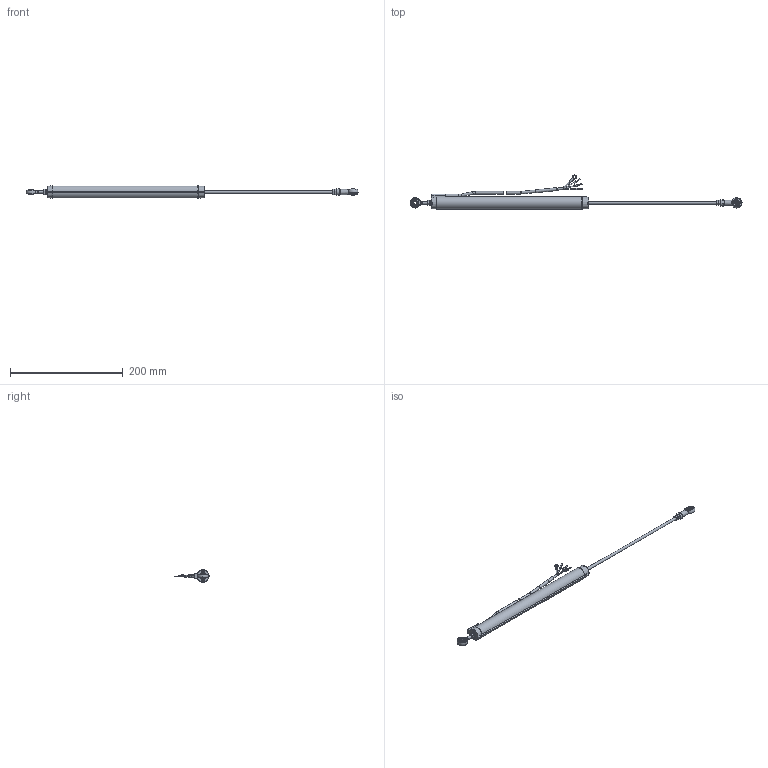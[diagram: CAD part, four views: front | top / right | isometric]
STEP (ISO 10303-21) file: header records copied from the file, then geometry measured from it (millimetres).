
FILE_DESCRIPTION(/* description */ (''),/* implementation_level */ '2;1');
FILE_NAME(/* name */ 'D:\LPPS-22 CAD Drawings\3D\LPPS-22-225\LPPS-22-225 SW.stp',/* time_stamp */ '2021-10-22T14:45:34-04:00',/* author */ ('Justin'),/* organization */ (''),/* preprocessor_version */ 'ST-DEVELOPER v18.1',/* originating_system */ 'Autodesk Inventor 2022',/* authorisation */ '');
FILE_SCHEMA (('AUTOMOTIVE_DESIGN { 1 0 10303 214 3 1 1 }'));
Products named in the file (4): LPPS-22-225 SW; LPPS-22-225 Cable_Simplify; LPPS-22-225 Housing_Simplify; LPPS-22-225 Shaft_Simplify
Assembly tree (3 placements, depth 2):
  LPPS-22-225 SW
    LPPS-22-225 Cable_Simplify
    LPPS-22-225 Housing_Simplify
    LPPS-22-225 Shaft_Simplify
Bounding box: 589.08 x 60.43 x 21.96 mm (x, y, z)
Volume: 60090.3 mm3; surface area: 56558.4 mm2
Topology: 30 solids, 30 shells, 757 faces, 2739 edges, 2048 vertices
Faces by surface type: cylinder 349, plane 202, cone 142, bspline 28, torus 22, sphere 14
Full cylindrical faces by diameter (mm): 1.27 x3, 1.48 x96, 1.575 x2, 2 x92, 2.286 x5, 3.175 x5, 3.81 x1, 3.881 x1, 4 x4, 4.134 x1, 4.191 x1, 4.342 x12, 4.572 x5, 4.826 x3, 4.851 x1, 4.953 x1, 5 x15, 5.004 x2, 5.08 x1, 5.207 x1, 5.3 x1, 6.35 x2, 9.144 x1, 10 x1, 12.675 x4, 12.7 x1, 15.875 x2, 17.78 x1
Entity records: 45067 total; most frequent: CARTESIAN_POINT 23734, ORIENTED_EDGE 5444, DIRECTION 3368, EDGE_CURVE 2722, VERTEX_POINT 2048, AXIS2_PLACEMENT_3D 1373, EDGE_LOOP 826, STYLED_ITEM 787
